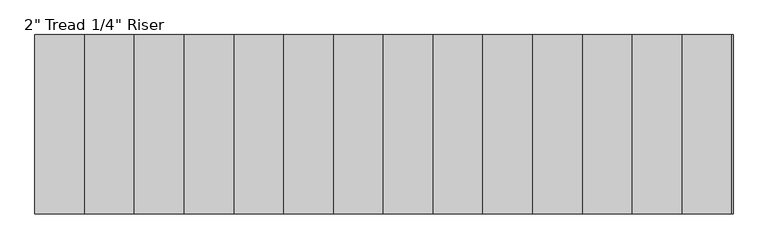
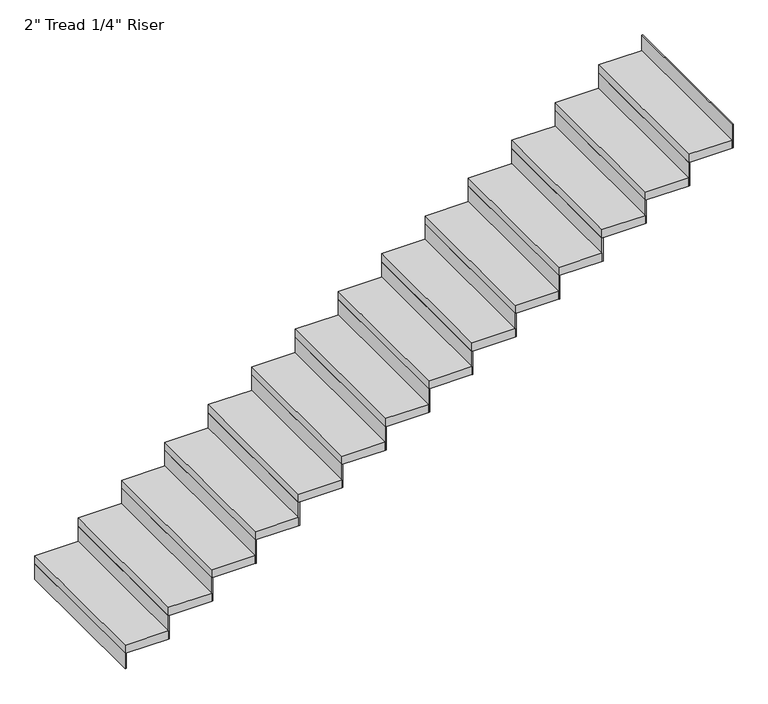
"""IFC4 building model written with IfcOpenShell, lengths in millimetres: stair flight geometry."""

from ifc_helpers import new_model, si_unit, frame, origin, origin_with_axes, place, context, project, spatial, polyline, outline, extrude, source, transform, mapped, element, save


def stair_flight_6d338f01(model_context):
    return source(origin(), model_context, "Body", "SweptSolid", [
        extrude(outline(polyline([(108856.6236551, 15846.0395941), (108850.2736551, 15846.0395941), (108850.2736551, 16760.4395941), (108856.6236551, 16760.4395941), (108856.6236551, 15846.0395941)])), origin_with_axes(), (0.0, 0.0, 1.0), 94.3428571),
        extrude(outline(polyline([(109104.2736551, 16760.4395941), (109104.2736551, 15846.0395941), (108850.2736551, 15846.0395941), (108850.2736551, 16760.4395941), (109104.2736551, 16760.4395941)])), frame((0.0, 0.0, 94.3428571), z_axis=(0.0, 0.0, 1.0), x_axis=(1.0, 0.0, 0.0)), (0.0, 0.0, 1.0), 50.8),
        extrude(outline(polyline([(109110.6236551, 15846.0395941), (109104.2736551, 15846.0395941), (109104.2736551, 16760.4395941), (109110.6236551, 16760.4395941), (109110.6236551, 15846.0395941)])), frame((0.0, 0.0, 94.3428571), z_axis=(0.0, 0.0, 1.0), x_axis=(1.0, 0.0, 0.0)), (0.0, 0.0, 1.0), 145.1428571),
        extrude(outline(polyline([(109358.2736551, 16760.4395941), (109358.2736551, 15846.0395941), (109104.2736551, 15846.0395941), (109104.2736551, 16760.4395941), (109358.2736551, 16760.4395941)])), frame((0.0, 0.0, 239.4857143), z_axis=(0.0, 0.0, 1.0), x_axis=(1.0, 0.0, 0.0)), (0.0, 0.0, 1.0), 50.8),
        extrude(outline(polyline([(109364.6236551, 15846.0395941), (109358.2736551, 15846.0395941), (109358.2736551, 16760.4395941), (109364.6236551, 16760.4395941), (109364.6236551, 15846.0395941)])), frame((0.0, 0.0, 239.4857143), z_axis=(0.0, 0.0, 1.0), x_axis=(1.0, 0.0, 0.0)), (0.0, 0.0, 1.0), 145.1428571),
        extrude(outline(polyline([(109612.2736551, 16760.4395941), (109612.2736551, 15846.0395941), (109358.2736551, 15846.0395941), (109358.2736551, 16760.4395941), (109612.2736551, 16760.4395941)])), frame((0.0, 0.0, 384.6285714), z_axis=(0.0, 0.0, 1.0), x_axis=(1.0, 0.0, 0.0)), (0.0, 0.0, 1.0), 50.8),
        extrude(outline(polyline([(109618.6236551, 15846.0395941), (109612.2736551, 15846.0395941), (109612.2736551, 16760.4395941), (109618.6236551, 16760.4395941), (109618.6236551, 15846.0395941)])), frame((0.0, 0.0, 384.6285714), z_axis=(0.0, 0.0, 1.0), x_axis=(1.0, 0.0, 0.0)), (0.0, 0.0, 1.0), 145.1428571),
        extrude(outline(polyline([(109866.2736551, 16760.4395941), (109866.2736551, 15846.0395941), (109612.2736551, 15846.0395941), (109612.2736551, 16760.4395941), (109866.2736551, 16760.4395941)])), frame((0.0, 0.0, 529.7714286), z_axis=(0.0, 0.0, 1.0), x_axis=(1.0, 0.0, 0.0)), (0.0, 0.0, 1.0), 50.8),
        extrude(outline(polyline([(109872.6236551, 15846.0395941), (109866.2736551, 15846.0395941), (109866.2736551, 16760.4395941), (109872.6236551, 16760.4395941), (109872.6236551, 15846.0395941)])), frame((0.0, 0.0, 529.7714286), z_axis=(0.0, 0.0, 1.0), x_axis=(1.0, 0.0, 0.0)), (0.0, 0.0, 1.0), 145.1428571),
        extrude(outline(polyline([(110120.2736551, 16760.4395941), (110120.2736551, 15846.0395941), (109866.2736551, 15846.0395941), (109866.2736551, 16760.4395941), (110120.2736551, 16760.4395941)])), frame((0.0, 0.0, 674.9142857), z_axis=(0.0, 0.0, 1.0), x_axis=(1.0, 0.0, 0.0)), (0.0, 0.0, 1.0), 50.8),
        extrude(outline(polyline([(110126.6236551, 15846.0395941), (110120.2736551, 15846.0395941), (110120.2736551, 16760.4395941), (110126.6236551, 16760.4395941), (110126.6236551, 15846.0395941)])), frame((0.0, 0.0, 674.9142857), z_axis=(0.0, 0.0, 1.0), x_axis=(1.0, 0.0, 0.0)), (0.0, 0.0, 1.0), 145.1428571),
        extrude(outline(polyline([(110374.2736551, 16760.4395941), (110374.2736551, 15846.0395941), (110120.2736551, 15846.0395941), (110120.2736551, 16760.4395941), (110374.2736551, 16760.4395941)])), frame((0.0, 0.0, 820.0571429), z_axis=(0.0, 0.0, 1.0), x_axis=(1.0, 0.0, 0.0)), (0.0, 0.0, 1.0), 50.8),
        extrude(outline(polyline([(110380.6236551, 15846.0395941), (110374.2736551, 15846.0395941), (110374.2736551, 16760.4395941), (110380.6236551, 16760.4395941), (110380.6236551, 15846.0395941)])), frame((0.0, 0.0, 820.0571429), z_axis=(0.0, 0.0, 1.0), x_axis=(1.0, 0.0, 0.0)), (0.0, 0.0, 1.0), 145.1428571),
        extrude(outline(polyline([(110628.2736551, 16760.4395941), (110628.2736551, 15846.0395941), (110374.2736551, 15846.0395941), (110374.2736551, 16760.4395941), (110628.2736551, 16760.4395941)])), frame((0.0, 0.0, 965.2), z_axis=(0.0, 0.0, 1.0), x_axis=(1.0, 0.0, 0.0)), (0.0, 0.0, 1.0), 50.8),
        extrude(outline(polyline([(110634.6236551, 15846.0395941), (110628.2736551, 15846.0395941), (110628.2736551, 16760.4395941), (110634.6236551, 16760.4395941), (110634.6236551, 15846.0395941)])), frame((0.0, 0.0, 965.2), z_axis=(0.0, 0.0, 1.0), x_axis=(1.0, 0.0, 0.0)), (0.0, 0.0, 1.0), 145.1428571),
        extrude(outline(polyline([(110882.2736551, 16760.4395941), (110882.2736551, 15846.0395941), (110628.2736551, 15846.0395941), (110628.2736551, 16760.4395941), (110882.2736551, 16760.4395941)])), frame((0.0, 0.0, 1110.3428571), z_axis=(0.0, 0.0, 1.0), x_axis=(1.0, 0.0, 0.0)), (0.0, 0.0, 1.0), 50.8),
        extrude(outline(polyline([(110888.6236551, 15846.0395941), (110882.2736551, 15846.0395941), (110882.2736551, 16760.4395941), (110888.6236551, 16760.4395941), (110888.6236551, 15846.0395941)])), frame((0.0, 0.0, 1110.3428571), z_axis=(0.0, 0.0, 1.0), x_axis=(1.0, 0.0, 0.0)), (0.0, 0.0, 1.0), 145.1428571),
        extrude(outline(polyline([(111136.2736551, 16760.4395941), (111136.2736551, 15846.0395941), (110882.2736551, 15846.0395941), (110882.2736551, 16760.4395941), (111136.2736551, 16760.4395941)])), frame((0.0, 0.0, 1255.4857143), z_axis=(0.0, 0.0, 1.0), x_axis=(1.0, 0.0, 0.0)), (0.0, 0.0, 1.0), 50.8),
        extrude(outline(polyline([(111142.6236551, 15846.0395941), (111136.2736551, 15846.0395941), (111136.2736551, 16760.4395941), (111142.6236551, 16760.4395941), (111142.6236551, 15846.0395941)])), frame((0.0, 0.0, 1255.4857143), z_axis=(0.0, 0.0, 1.0), x_axis=(1.0, 0.0, 0.0)), (0.0, 0.0, 1.0), 145.1428571),
        extrude(outline(polyline([(111390.2736551, 16760.4395941), (111390.2736551, 15846.0395941), (111136.2736551, 15846.0395941), (111136.2736551, 16760.4395941), (111390.2736551, 16760.4395941)])), frame((0.0, 0.0, 1400.6285714), z_axis=(0.0, 0.0, 1.0), x_axis=(1.0, 0.0, 0.0)), (0.0, 0.0, 1.0), 50.8),
        extrude(outline(polyline([(111396.6236551, 15846.0395941), (111390.2736551, 15846.0395941), (111390.2736551, 16760.4395941), (111396.6236551, 16760.4395941), (111396.6236551, 15846.0395941)])), frame((0.0, 0.0, 1400.6285714), z_axis=(0.0, 0.0, 1.0), x_axis=(1.0, 0.0, 0.0)), (0.0, 0.0, 1.0), 145.1428571),
        extrude(outline(polyline([(111644.2736551, 16760.4395941), (111644.2736551, 15846.0395941), (111390.2736551, 15846.0395941), (111390.2736551, 16760.4395941), (111644.2736551, 16760.4395941)])), frame((0.0, 0.0, 1545.7714286), z_axis=(0.0, 0.0, 1.0), x_axis=(1.0, 0.0, 0.0)), (0.0, 0.0, 1.0), 50.8),
        extrude(outline(polyline([(111650.6236551, 15846.0395941), (111644.2736551, 15846.0395941), (111644.2736551, 16760.4395941), (111650.6236551, 16760.4395941), (111650.6236551, 15846.0395941)])), frame((0.0, 0.0, 1545.7714286), z_axis=(0.0, 0.0, 1.0), x_axis=(1.0, 0.0, 0.0)), (0.0, 0.0, 1.0), 145.1428571),
        extrude(outline(polyline([(111898.2736551, 16760.4395941), (111898.2736551, 15846.0395941), (111644.2736551, 15846.0395941), (111644.2736551, 16760.4395941), (111898.2736551, 16760.4395941)])), frame((0.0, 0.0, 1690.9142857), z_axis=(0.0, 0.0, 1.0), x_axis=(1.0, 0.0, 0.0)), (0.0, 0.0, 1.0), 50.8),
        extrude(outline(polyline([(111904.6236551, 15846.0395941), (111898.2736551, 15846.0395941), (111898.2736551, 16760.4395941), (111904.6236551, 16760.4395941), (111904.6236551, 15846.0395941)])), frame((0.0, 0.0, 1690.9142857), z_axis=(0.0, 0.0, 1.0), x_axis=(1.0, 0.0, 0.0)), (0.0, 0.0, 1.0), 145.1428571),
        extrude(outline(polyline([(112152.2736551, 16760.4395941), (112152.2736551, 15846.0395941), (111898.2736551, 15846.0395941), (111898.2736551, 16760.4395941), (112152.2736551, 16760.4395941)])), frame((0.0, 0.0, 1836.0571429), z_axis=(0.0, 0.0, 1.0), x_axis=(1.0, 0.0, 0.0)), (0.0, 0.0, 1.0), 50.8),
        extrude(outline(polyline([(112158.6236551, 15846.0395941), (112152.2736551, 15846.0395941), (112152.2736551, 16760.4395941), (112158.6236551, 16760.4395941), (112158.6236551, 15846.0395941)])), frame((0.0, 0.0, 1836.0571429), z_axis=(0.0, 0.0, 1.0), x_axis=(1.0, 0.0, 0.0)), (0.0, 0.0, 1.0), 145.1428571),
        extrude(outline(polyline([(112412.6236551, 15846.0395941), (112406.2736551, 15846.0395941), (112406.2736551, 16760.4395941), (112412.6236551, 16760.4395941), (112412.6236551, 15846.0395941)])), frame((0.0, 0.0, 1981.2), z_axis=(0.0, 0.0, 1.0), x_axis=(1.0, 0.0, 0.0)), (0.0, 0.0, 1.0), 145.1428571),
        extrude(outline(polyline([(112406.2736551, 16760.4395941), (112406.2736551, 15846.0395941), (112152.2736551, 15846.0395941), (112152.2736551, 16760.4395941), (112406.2736551, 16760.4395941)])), frame((0.0, 0.0, 1981.2), z_axis=(0.0, 0.0, 1.0), x_axis=(1.0, 0.0, 0.0)), (0.0, 0.0, 1.0), 50.8),
    ])


if __name__ == "__main__":
    model = new_model("IFC4")
    model_context = context("Model", 3, world=origin())
    ifc_project = project(units=[si_unit("LENGTHUNIT", "METRE", prefix="MILLI")], contexts=[model_context])
    site = spatial("IfcSite", under=ifc_project)
    building = spatial("IfcBuilding", under=site)
    placement = place(None, origin())
    stair_flight_shape = stair_flight_6d338f01(model_context)
    element("IfcStairFlight", 1, ObjectType="2\" Tread 1/4\" Riser", at=placement, inside=building, context=model_context, shape_type="MappedRepresentation", body=[
        mapped(stair_flight_shape, transform((0.0, 0.0, 0.0), x_axis=(1.0, 0.0, 0.0), y_axis=(0.0, 1.0, 0.0), z_axis=(0.0, 0.0, 1.0))),
    ])
    save(model, "model.ifc")
